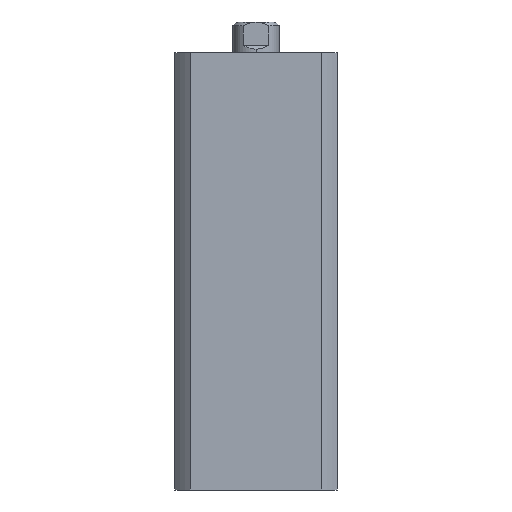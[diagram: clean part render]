
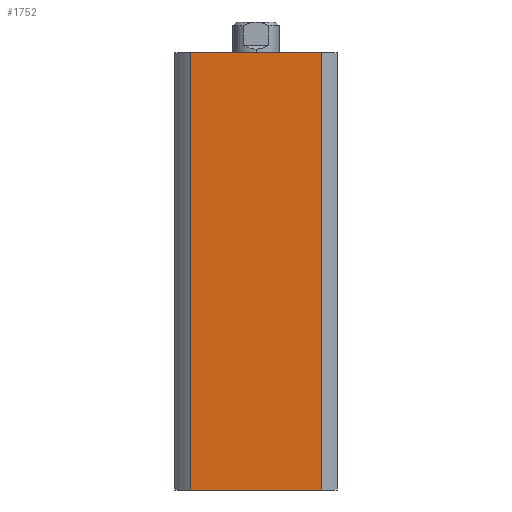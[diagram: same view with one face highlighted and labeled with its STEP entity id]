
A CAD part, left-side view. The second image highlights one B-rep face of the part: STEP entity #1752.
In plain terms, the highlighted planar face has unit normal (-1, 0, 0).
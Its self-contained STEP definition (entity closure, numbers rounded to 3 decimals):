
#1213 = VERTEX_POINT ( 'NONE', #3740 ) ;
#1214 = VERTEX_POINT ( 'NONE', #3741 ) ;
#1360 = VERTEX_POINT ( 'NONE', #3744 ) ;
#1480 = LINE ( 'NONE', #4502, #1485 ) ;
#1485 = VECTOR ( 'NONE', #4496, 1000. ) ;
#1495 = LINE ( 'NONE', #4521, #1498 ) ;
#1497 = LINE ( 'NONE', #4523, #1500 ) ;
#1498 = VECTOR ( 'NONE', #4522, 1000. ) ;
#1500 = VECTOR ( 'NONE', #4524, 1000. ) ;
#1612 = EDGE_CURVE ( 'NONE', #1213, #1360, #4860, .T. ) ;
#1752 = ADVANCED_FACE ( 'NONE', ( #4949 ), #2328, .F. ) ;
#1893 = VERTEX_POINT ( 'NONE', #4439 ) ;
#1996 = EDGE_CURVE ( 'NONE', #1893, #1214, #1480, .T. ) ;
#2004 = EDGE_CURVE ( 'NONE', #1214, #1360, #1495, .T. ) ;
#2005 = EDGE_CURVE ( 'NONE', #1213, #1893, #1497, .T. ) ;
#2219 = DIRECTION ( 'NONE',  ( 0., -1., 0. ) ) ;
#2223 = CARTESIAN_POINT ( 'NONE',  ( -21., 21., 0. ) ) ;
#2321 = CARTESIAN_POINT ( 'NONE',  ( -21., 21., 113. ) ) ;
#2328 = PLANE ( 'NONE',  #4167 ) ;
#2330 = DIRECTION ( 'NONE',  ( 1., 0., 0. ) ) ;
#2331 = DIRECTION ( 'NONE',  ( 0., 1., 0. ) ) ;
#2692 = EDGE_LOOP ( 'NONE', ( #3640, #3641, #3642, #3643 ) ) ;
#3640 = ORIENTED_EDGE ( 'NONE', *, *, #2004, .F. ) ;
#3641 = ORIENTED_EDGE ( 'NONE', *, *, #1996, .F. ) ;
#3642 = ORIENTED_EDGE ( 'NONE', *, *, #2005, .F. ) ;
#3643 = ORIENTED_EDGE ( 'NONE', *, *, #1612, .T. ) ;
#3740 = CARTESIAN_POINT ( 'NONE',  ( -21., 16.971, 0. ) ) ;
#3741 = CARTESIAN_POINT ( 'NONE',  ( -21., -16.971, 113. ) ) ;
#3744 = CARTESIAN_POINT ( 'NONE',  ( -21., -16.971, 0. ) ) ;
#4167 = AXIS2_PLACEMENT_3D ( 'NONE', #2321, #2330, #2331 ) ;
#4439 = CARTESIAN_POINT ( 'NONE',  ( -21., 16.971, 113. ) ) ;
#4496 = DIRECTION ( 'NONE',  ( 0., -1., 0. ) ) ;
#4502 = CARTESIAN_POINT ( 'NONE',  ( -21., 21., 113. ) ) ;
#4521 = CARTESIAN_POINT ( 'NONE',  ( -21., -16.971, 113. ) ) ;
#4522 = DIRECTION ( 'NONE',  ( 0., 0., -1. ) ) ;
#4523 = CARTESIAN_POINT ( 'NONE',  ( -21., 16.971, 113. ) ) ;
#4524 = DIRECTION ( 'NONE',  ( 0., 0., 1. ) ) ;
#4860 = LINE ( 'NONE', #2223, #4863 ) ;
#4863 = VECTOR ( 'NONE', #2219, 1000. ) ;
#4949 = FACE_OUTER_BOUND ( 'NONE', #2692, .T. ) ;
